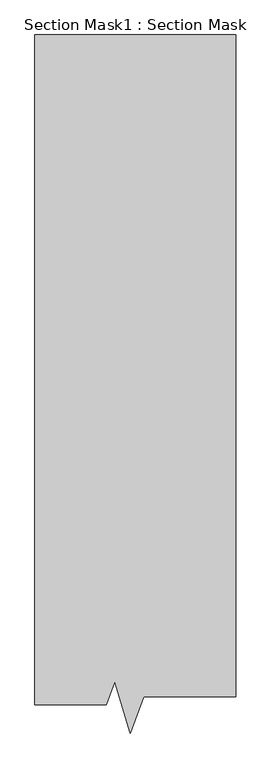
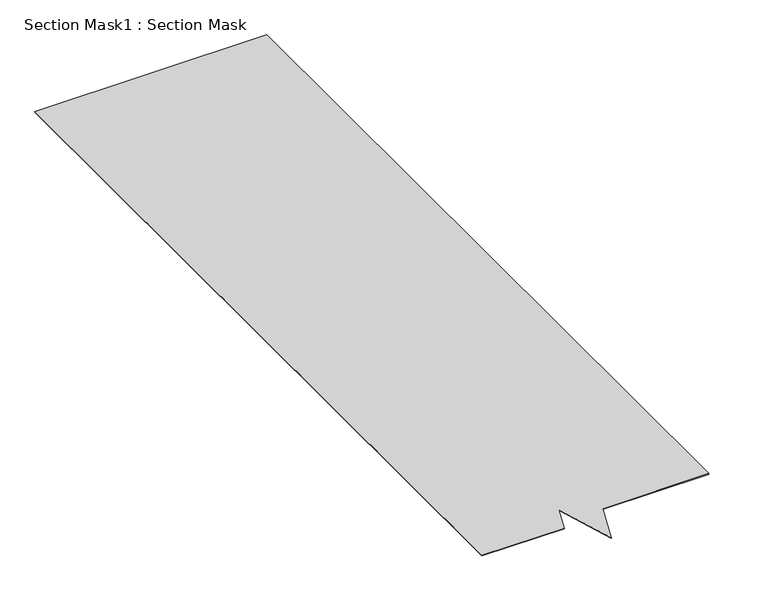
"""IFC4 building model written with IfcOpenShell, lengths in millimetres: proxy geometry, Section Mask1 : Section Mask."""

from ifc_helpers import new_model, si_unit, frame, origin, place, context, project, spatial, polyline, outline, extrude, source, transform, mapped, element, save


def section_mask1_section_mask_9468c03d(model_context):
    return source(origin(), model_context, "Body", "SweptSolid", [
        extrude(outline(polyline([(6022.1742459, -201.2374623), (5827.0649009, -201.2374623), (5827.0649009, 1632.9500983), (6376.8344437, 1632.9500983), (6376.8344437, -180.3889907), (6124.8081466, -180.3889907), (6088.1912899, -279.5518324), (6045.1911854, -138.9048283), (6022.1742459, -201.2374623)])), frame((0.0, 0.0, 51.3773345), z_axis=(0.0, 0.0, 1.0), x_axis=(1.0, 0.0, 0.0)), (0.0, 0.0, 1.0), 1.469501),
    ])


if __name__ == "__main__":
    model = new_model("IFC4")
    model_context = context("Model", 3, world=origin())
    ifc_project = project(units=[si_unit("LENGTHUNIT", "METRE", prefix="MILLI")], contexts=[model_context])
    site = spatial("IfcSite", under=ifc_project)
    building = spatial("IfcBuilding", under=site)
    placement = place(None, origin())
    section_mask1_section_mask_shape = section_mask1_section_mask_9468c03d(model_context)
    element("IfcBuildingElementProxy", 1, Name="Section Mask1 : Section Mask", ObjectType="Section Mask1 : Section Mask", at=placement, inside=building, context=model_context, shape_type="MappedRepresentation", body=[
        mapped(section_mask1_section_mask_shape, transform((0.0, 0.0, 0.0), x_axis=(1.0, 0.0, 0.0), y_axis=(0.0, 1.0, 0.0), z_axis=(0.0, 0.0, 1.0))),
    ])
    save(model, "model.ifc")
